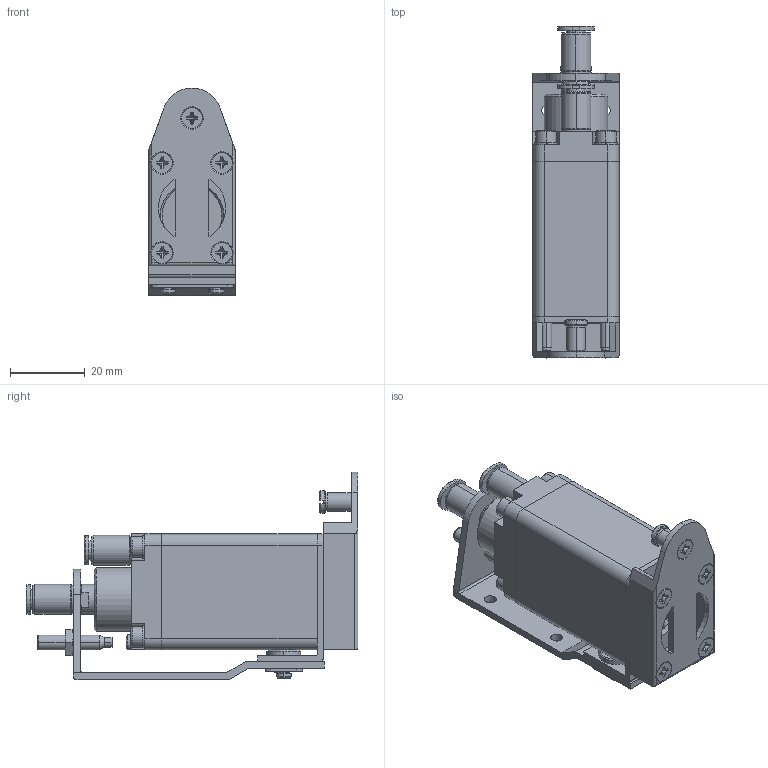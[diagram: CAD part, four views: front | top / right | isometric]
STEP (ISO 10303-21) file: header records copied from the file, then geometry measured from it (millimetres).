
FILE_DESCRIPTION (( 'STEP AP214' ), '1' );
FILE_NAME ('GT-NY05-4.STEP', '2019-11-26T07:39:20', ( '微软用户' ), ( '微软中国' ), 'SwSTEP 2.0', 'SolidWorks 2016', '' );
FILE_SCHEMA (( 'AUTOMOTIVE_DESIGN' ));
Length unit declared in the file: millimetre
Products named in the file (1): GT-NY05-4
Bounding box: 23 x 88.6 x 55.5 mm (x, y, z)
Surface area: 22209.5 mm2 (no closed solid volume)
Topology: 0 solids, 30 shells, 763 faces, 1979 edges, 1292 vertices
Faces by surface type: plane 338, cylinder 257, bspline 118, cone 28, torus 22
Entity records: 32617 total; most frequent: CARTESIAN_POINT 10652, ORIENTED_EDGE 3864, DIRECTION 3505, EDGE_CURVE 1969, AXIS2_PLACEMENT_3D 1324, VERTEX_POINT 1292, EDGE_LOOP 866, VECTOR 857
